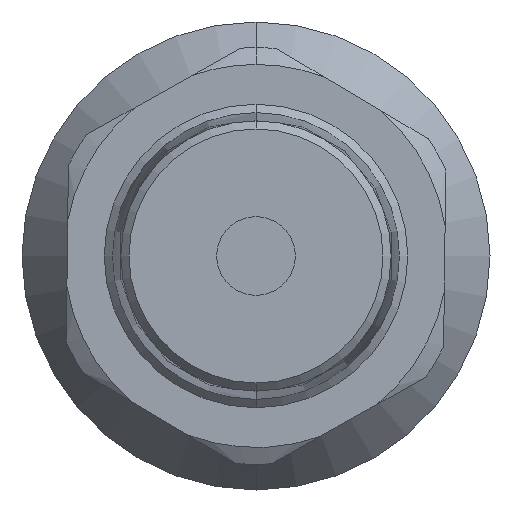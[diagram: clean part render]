
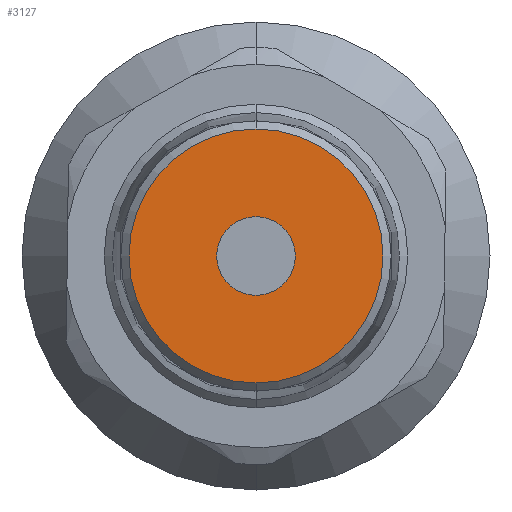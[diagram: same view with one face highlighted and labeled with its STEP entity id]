
A CAD part, front view. The second image highlights one B-rep face of the part: STEP entity #3127.
In plain terms, the highlighted planar face has unit normal (0, -1, 0).
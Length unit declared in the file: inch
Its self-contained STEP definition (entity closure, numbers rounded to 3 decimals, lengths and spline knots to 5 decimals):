
#466 = ORIENTED_EDGE ( 'NONE', *, *, #2459, .T. ) ;
#579 = EDGE_CURVE ( 'NONE', #2974, #1653, #4432, .T. ) ;
#582 = CARTESIAN_POINT ( 'NONE',  ( 0., 0., 0. ) ) ;
#1009 = DIRECTION ( 'NONE',  ( 0., 0., 1. ) ) ;
#1189 = EDGE_LOOP ( 'NONE', ( #2405, #4729 ) ) ;
#1271 = DIRECTION ( 'NONE',  ( 0., 1., 0. ) ) ;
#1408 = AXIS2_PLACEMENT_3D ( 'NONE', #2356, #4264, #6195 ) ;
#1564 = EDGE_CURVE ( 'NONE', #1653, #2974, #1903, .T. ) ;
#1652 = AXIS2_PLACEMENT_3D ( 'NONE', #582, #5872, #3974 ) ;
#1653 = VERTEX_POINT ( 'NONE', #3203 ) ;
#1803 = DIRECTION ( 'NONE',  ( 0., 0., 1. ) ) ;
#1903 = CIRCLE ( 'NONE', #5134, 0.09843 ) ;
#2099 = DIRECTION ( 'NONE',  ( 0., 1., 0. ) ) ;
#2107 = AXIS2_PLACEMENT_3D ( 'NONE', #3535, #5896, #1009 ) ;
#2325 = ORIENTED_EDGE ( 'NONE', *, *, #5879, .T. ) ;
#2356 = CARTESIAN_POINT ( 'NONE',  ( 0., 0., 0. ) ) ;
#2405 = ORIENTED_EDGE ( 'NONE', *, *, #579, .T. ) ;
#2459 = EDGE_CURVE ( 'NONE', #4757, #2542, #3279, .T. ) ;
#2542 = VERTEX_POINT ( 'NONE', #5022 ) ;
#2829 = FACE_BOUND ( 'NONE', #1189, .T. ) ;
#2974 = VERTEX_POINT ( 'NONE', #4027 ) ;
#3127 = ADVANCED_FACE ( 'NONE', ( #6201, #2829 ), #5209, .F. ) ;
#3203 = CARTESIAN_POINT ( 'NONE',  ( 0., 0., -0.09843 ) ) ;
#3279 = CIRCLE ( 'NONE', #1652, 0.31791 ) ;
#3378 = AXIS2_PLACEMENT_3D ( 'NONE', #4747, #1271, #1803 ) ;
#3535 = CARTESIAN_POINT ( 'NONE',  ( 0., 0., 0. ) ) ;
#3974 = DIRECTION ( 'NONE',  ( 0., 0., 1. ) ) ;
#4027 = CARTESIAN_POINT ( 'NONE',  ( 0., 0., 0.09843 ) ) ;
#4071 = CARTESIAN_POINT ( 'NONE',  ( 0., 0., 0. ) ) ;
#4264 = DIRECTION ( 'NONE',  ( 0., 1., 0. ) ) ;
#4432 = CIRCLE ( 'NONE', #1408, 0.09843 ) ;
#4651 = EDGE_LOOP ( 'NONE', ( #466, #2325 ) ) ;
#4729 = ORIENTED_EDGE ( 'NONE', *, *, #1564, .T. ) ;
#4747 = CARTESIAN_POINT ( 'NONE',  ( 0.09843, 0., 0. ) ) ;
#4757 = VERTEX_POINT ( 'NONE', #5251 ) ;
#5022 = CARTESIAN_POINT ( 'NONE',  ( 0., 0., -0.31791 ) ) ;
#5134 = AXIS2_PLACEMENT_3D ( 'NONE', #4071, #2099, #5400 ) ;
#5209 = PLANE ( 'NONE',  #3378 ) ;
#5251 = CARTESIAN_POINT ( 'NONE',  ( 0., 0., 0.31791 ) ) ;
#5400 = DIRECTION ( 'NONE',  ( 0., 0., 1. ) ) ;
#5872 = DIRECTION ( 'NONE',  ( 0., -1., 0. ) ) ;
#5879 = EDGE_CURVE ( 'NONE', #2542, #4757, #6227, .T. ) ;
#5896 = DIRECTION ( 'NONE',  ( 0., -1., 0. ) ) ;
#6195 = DIRECTION ( 'NONE',  ( 0., 0., 1. ) ) ;
#6201 = FACE_OUTER_BOUND ( 'NONE', #4651, .T. ) ;
#6227 = CIRCLE ( 'NONE', #2107, 0.31791 ) ;
